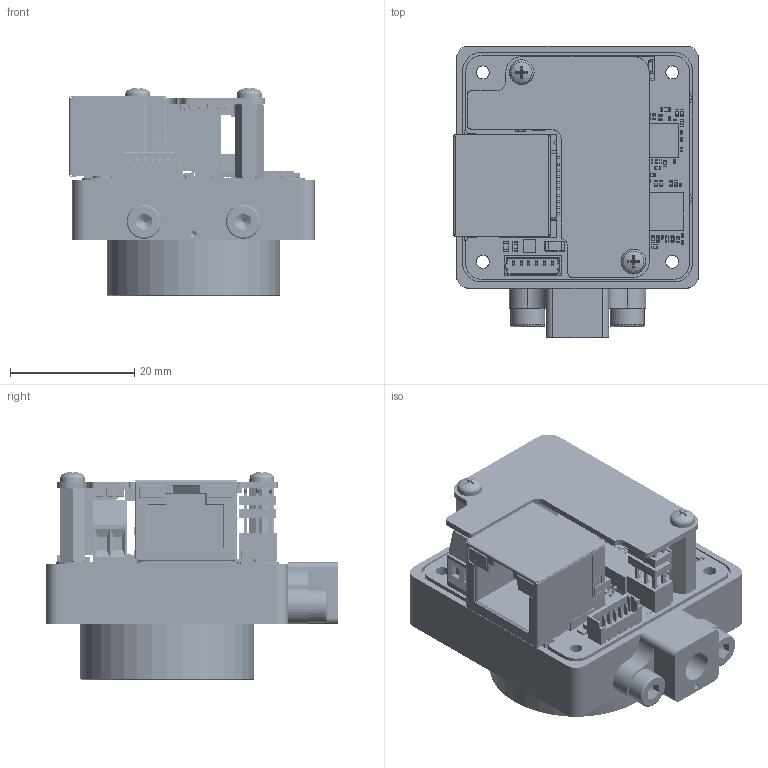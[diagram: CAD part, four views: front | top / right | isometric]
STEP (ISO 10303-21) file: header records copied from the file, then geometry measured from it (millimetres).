
FILE_DESCRIPTION(/* description */ (''),/* implementation_level */ '2;1');
FILE_NAME(/* name */ 'KSM_308-24-08-00-00_ZB C-MountKamera_GigE-4SB_IMX568_PoE add-on.stp',/* time_stamp */ '2025-06-06T11:13:22+02:00',/* author */ ('khw'),/* organization */ ('TIS/ Germany'),/* preprocessor_version */ 'ST-DEVELOPER v20',/* originating_system */ 'Autodesk Inventor 2025',/* authorisation */ '520025 mm^3');
FILE_SCHEMA (('AUTOMOTIVE_DESIGN { 1 0 10303 214 3 1 1 }'));
Products named in the file (4): KSM_308-24-08-00-00_ZB C-MountKamera_GigE-4SB_IMX568_PoE add-on; 2_308-24-08-00-00_ZB C-MountKamera_GigE-4SB_IMX568_PoE add-o; TripodAdapter 14-20-UNC; Zylinderschraube M3x6
Assembly tree (4 placements, depth 2):
  KSM_308-24-08-00-00_ZB C-MountKamera_GigE-4SB_IMX568_PoE add-on
    2_308-24-08-00-00_ZB C-MountKamera_GigE-4SB_IMX568_PoE add-o
    TripodAdapter 14-20-UNC
    Zylinderschraube M3x6  x2
Bounding box: 39.49 x 47 x 33.59 mm (x, y, z)
Volume: 18795.9 mm3; surface area: 17339.7 mm2
Topology: 13 solids, 13 shells, 11016 faces, 26489 edges, 14549 vertices
Faces by surface type: plane 4685, cylinder 4252, sphere 994, torus 990, cone 61, bspline 34
Full cylindrical faces by diameter (mm): 0.3 x1, 0.5 x6, 0.739 x1, 1 x1, 1.05 x2, 1.2 x2, 1.567 x2, 2.032 x2, 2.1 x4, 2.459 x8, 3 x2, 3.2 x2, 4.978 x1, 5.5 x2, 24.536 x1, 28 x1
Entity records: 317793 total; most frequent: DIRECTION 55949, CARTESIAN_POINT 52721, ORIENTED_EDGE 50908, EDGE_CURVE 25454, AXIS2_PLACEMENT_3D 19687, LINE 16575, VECTOR 16575, VERTEX_POINT 14525
